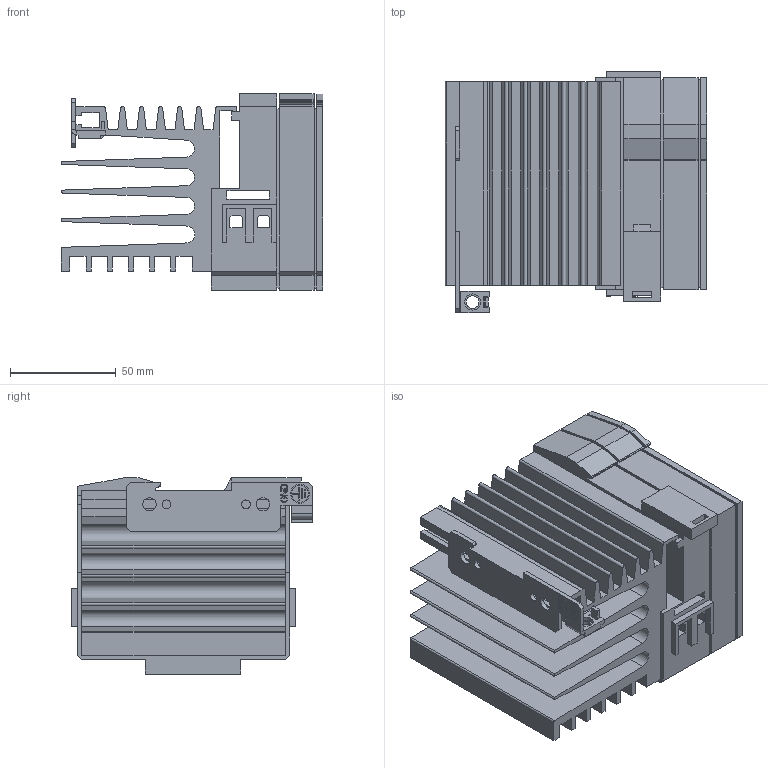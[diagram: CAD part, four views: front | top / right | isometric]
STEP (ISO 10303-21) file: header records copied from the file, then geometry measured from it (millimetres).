
FILE_DESCRIPTION((''),'2;1');
FILE_NAME('TE10_A_50A_IGES','2012-01-03T',('chrisloe'),(''),'PRO/ENGINEER BY PARAMETRIC TECHNOLOGY CORPORATION, 2010180','PRO/ENGINEER BY PARAMETRIC TECHNOLOGY CORPORATION, 2010180','');
FILE_SCHEMA(('CONFIG_CONTROL_DESIGN'));
Length unit declared in the file: millimetre
Products named in the file (1): TE10_A_50A_IGES
Bounding box: 123.6 x 113.93 x 92.7 mm (x, y, z)
Volume: 598549.6 mm3; surface area: 146328.5 mm2
Topology: 1 solids, 3 shells, 470 faces, 1305 edges, 849 vertices
Faces by surface type: plane 399, cylinder 59, cone 12
Entity records: 14857 total; most frequent: CARTESIAN_POINT 2624, ORIENTED_EDGE 2610, DIRECTION 2399, EDGE_CURVE 1305, VECTOR 1151, LINE 1151, VERTEX_POINT 849, AXIS2_PLACEMENT_3D 624
